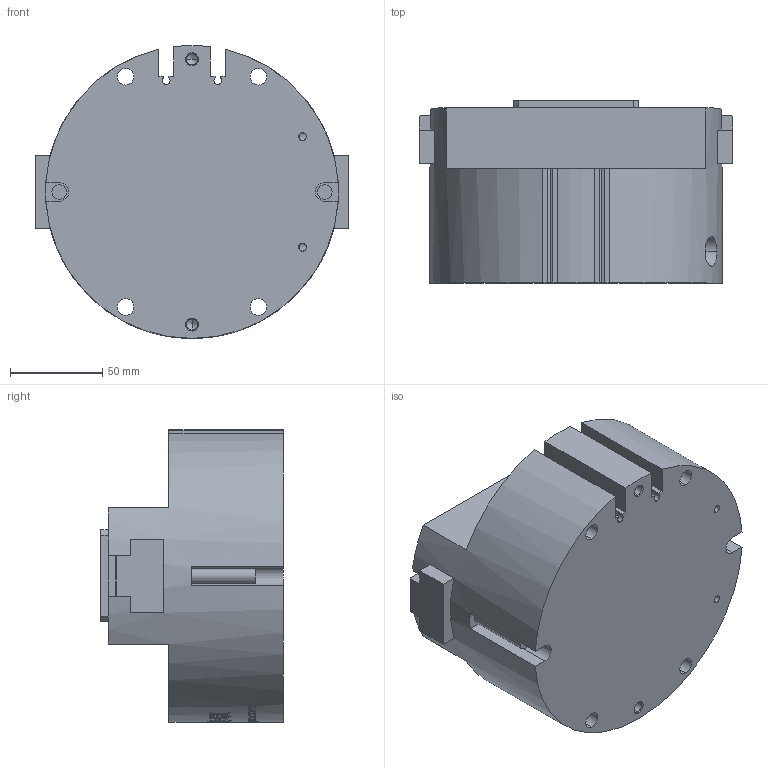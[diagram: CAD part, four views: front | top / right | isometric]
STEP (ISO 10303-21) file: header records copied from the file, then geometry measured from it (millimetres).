
FILE_DESCRIPTION (( 'STEP AP203' ), '1' );
FILE_NAME ('OPM-160-C2-原始檔-組合-W106.04.18.STEP', '2017-04-18T08:08:53', ( 'DanyaoCAD' ), ( '' ), 'SwSTEP 2.0', 'SolidWorks 2016', '' );
FILE_SCHEMA (( 'CONFIG_CONTROL_DESIGN' ));
Products named in the file (3): Corpo; Griffa; OPM-160-C2-原始檔-組合-W106.04.18
Assembly tree (3 placements, depth 2):
  OPM-160-C2-原始檔-組合-W106.04.18
    Corpo
    Griffa  x2
Bounding box: 170 x 99 x 158.93 mm (x, y, z)
Volume: 1548942.5 mm3; surface area: 145079.8 mm2
Topology: 3 solids, 3 shells, 956 faces, 2680 edges, 1780 vertices
Faces by surface type: bspline 665, plane 179, cylinder 100, cone 12
Entity records: 109976 total; most frequent: CARTESIAN_POINT 91626, ORIENTED_EDGE 5200, EDGE_CURVE 2600, B_SPLINE_CURVE_WITH_KNOTS 2045, VERTEX_POINT 1730, DIRECTION 1260, EDGE_LOOP 990, ADVANCED_FACE 925
